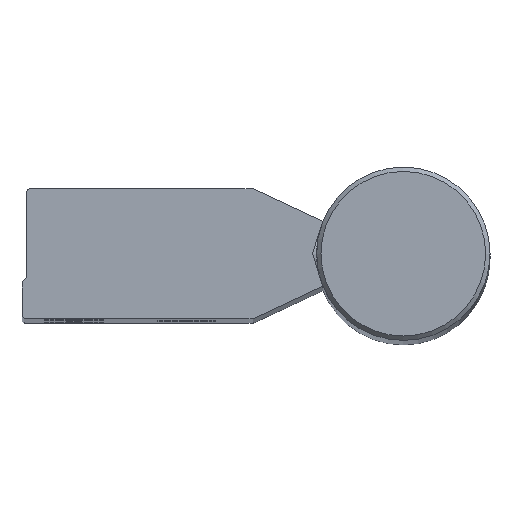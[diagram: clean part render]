
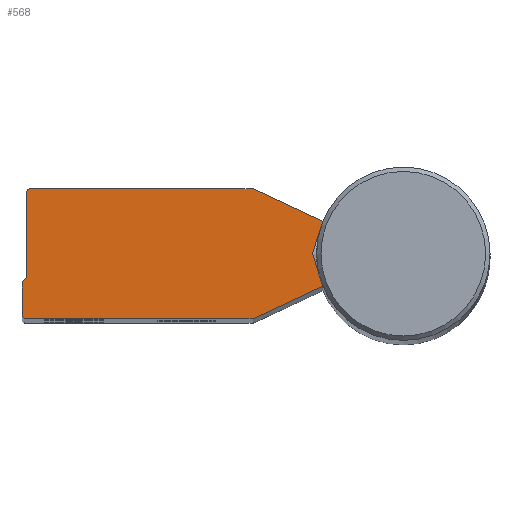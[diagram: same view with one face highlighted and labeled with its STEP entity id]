
A CAD part, top view. The second image highlights one B-rep face of the part: STEP entity #568.
In plain terms, the highlighted planar face has unit normal (0, 0, 1).
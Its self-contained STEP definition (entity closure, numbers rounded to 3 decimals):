
#568=ADVANCED_FACE('',(#826),#827,.F.);
#826=FACE_OUTER_BOUND('',#1168,.T.);
#827=PLANE('',#1169);
#1168=EDGE_LOOP('',(#1786,#1787,#1788,#1789,#1790,#1791,#1792,#1793,#1794,#1795,#1796));
#1169=AXIS2_PLACEMENT_3D('',#1797,#1798,#1799);
#1786=ORIENTED_EDGE('',*,*,#2196,.F.);
#1787=ORIENTED_EDGE('',*,*,#2151,.F.);
#1788=ORIENTED_EDGE('',*,*,#2167,.F.);
#1789=ORIENTED_EDGE('',*,*,#2157,.F.);
#1790=ORIENTED_EDGE('',*,*,#2221,.F.);
#1791=ORIENTED_EDGE('',*,*,#2222,.F.);
#1792=ORIENTED_EDGE('',*,*,#2223,.F.);
#1793=ORIENTED_EDGE('',*,*,#2224,.F.);
#1794=ORIENTED_EDGE('',*,*,#2225,.F.);
#1795=ORIENTED_EDGE('',*,*,#2226,.F.);
#1796=ORIENTED_EDGE('',*,*,#2187,.F.);
#1797=CARTESIAN_POINT('',(-86.0,14.0,300.0));
#1798=DIRECTION('',(0.0,0.0,-1.0));
#1799=DIRECTION('',(0.0,1.0,0.0));
#2151=EDGE_CURVE('',#2421,#2423,#2424,.T.);
#2157=EDGE_CURVE('',#2431,#2433,#2434,.T.);
#2167=EDGE_CURVE('',#2433,#2421,#2450,.T.);
#2187=EDGE_CURVE('',#2482,#2484,#2485,.T.);
#2196=EDGE_CURVE('',#2423,#2482,#2495,.T.);
#2221=EDGE_CURVE('',#2543,#2431,#2544,.T.);
#2222=EDGE_CURVE('',#2545,#2543,#2546,.T.);
#2223=EDGE_CURVE('',#2547,#2545,#2548,.T.);
#2224=EDGE_CURVE('',#2549,#2547,#2550,.T.);
#2225=EDGE_CURVE('',#2551,#2549,#2552,.T.);
#2226=EDGE_CURVE('',#2484,#2551,#2553,.T.);
#2421=VERTEX_POINT('',#3534);
#2423=VERTEX_POINT('',#3537);
#2424=LINE('',#3538,#3539);
#2431=VERTEX_POINT('',#3549);
#2433=VERTEX_POINT('',#3552);
#2434=LINE('',#3553,#3554);
#2450=LINE('',#3574,#3575);
#2482=VERTEX_POINT('',#3613);
#2484=VERTEX_POINT('',#3616);
#2485=LINE('',#3617,#3618);
#2495=CIRCLE('',#3630,1.0);
#2543=VERTEX_POINT('',#3684);
#2544=LINE('',#3685,#3686);
#2545=VERTEX_POINT('',#3687);
#2546=LINE('',#3688,#3689);
#2547=VERTEX_POINT('',#3690);
#2548=LINE('',#3691,#3692);
#2549=VERTEX_POINT('',#3693);
#2550=LINE('',#3694,#3695);
#2551=VERTEX_POINT('',#3696);
#2552=LINE('',#3697,#3698);
#2553=LINE('',#3699,#3700);
#3534=CARTESIAN_POINT('',(-87.0,-5.5,300.0));
#3537=CARTESIAN_POINT('',(-87.0,14.0,300.0));
#3538=CARTESIAN_POINT('',(-87.0,-5.5,300.0));
#3539=VECTOR('',#3936,1.0);
#3549=CARTESIAN_POINT('',(-88.0,-14.5,300.0));
#3552=CARTESIAN_POINT('',(-88.0,-6.5,300.0));
#3553=CARTESIAN_POINT('',(-88.0,-14.5,300.0));
#3554=VECTOR('',#3944,1.0);
#3574=CARTESIAN_POINT('',(-88.0,-6.5,300.0));
#3575=VECTOR('',#3964,1.0);
#3613=CARTESIAN_POINT('',(-86.0,15.0,300.0));
#3616=CARTESIAN_POINT('',(-34.69,15.0,300.0));
#3617=CARTESIAN_POINT('',(-86.0,15.0,300.0));
#3618=VECTOR('',#4008,1.0);
#3630=AXIS2_PLACEMENT_3D('',#4029,#4030,#4031);
#3684=CARTESIAN_POINT('',(-87.5,-15.0,300.0));
#3685=CARTESIAN_POINT('',(-87.5,-15.0,300.0));
#3686=VECTOR('',#4092,1.0);
#3687=CARTESIAN_POINT('',(-34.69,-15.0,300.0));
#3688=CARTESIAN_POINT('',(-34.69,-15.0,300.0));
#3689=VECTOR('',#4093,1.0);
#3690=CARTESIAN_POINT('',(-18.606,-7.5,300.0));
#3691=CARTESIAN_POINT('',(-18.606,-7.5,300.0));
#3692=VECTOR('',#4094,1.0);
#3693=CARTESIAN_POINT('',(-20.971,0.0,300.0));
#3694=CARTESIAN_POINT('',(-20.971,0.0,300.0));
#3695=VECTOR('',#4095,1.0);
#3696=CARTESIAN_POINT('',(-18.606,7.5,300.0));
#3697=CARTESIAN_POINT('',(-18.606,7.5,300.0));
#3698=VECTOR('',#4096,1.0);
#3699=CARTESIAN_POINT('',(-34.69,15.0,300.0));
#3700=VECTOR('',#4097,1.0);
#3936=DIRECTION('',(0.0,1.0,0.0));
#3944=DIRECTION('',(0.0,1.0,0.0));
#3964=DIRECTION('',(0.707,0.707,0.0));
#4008=DIRECTION('',(1.0,0.0,0.0));
#4029=CARTESIAN_POINT('',(-86.0,14.0,300.0));
#4030=DIRECTION('',(0.0,0.0,-1.0));
#4031=DIRECTION('',(1.0,0.0,0.0));
#4092=DIRECTION('',(-0.707,0.707,0.0));
#4093=DIRECTION('',(-1.0,0.0,0.0));
#4094=DIRECTION('',(-0.906,-0.423,0.0));
#4095=DIRECTION('',(0.301,-0.954,0.0));
#4096=DIRECTION('',(-0.301,-0.954,0.0));
#4097=DIRECTION('',(0.906,-0.423,0.0));
